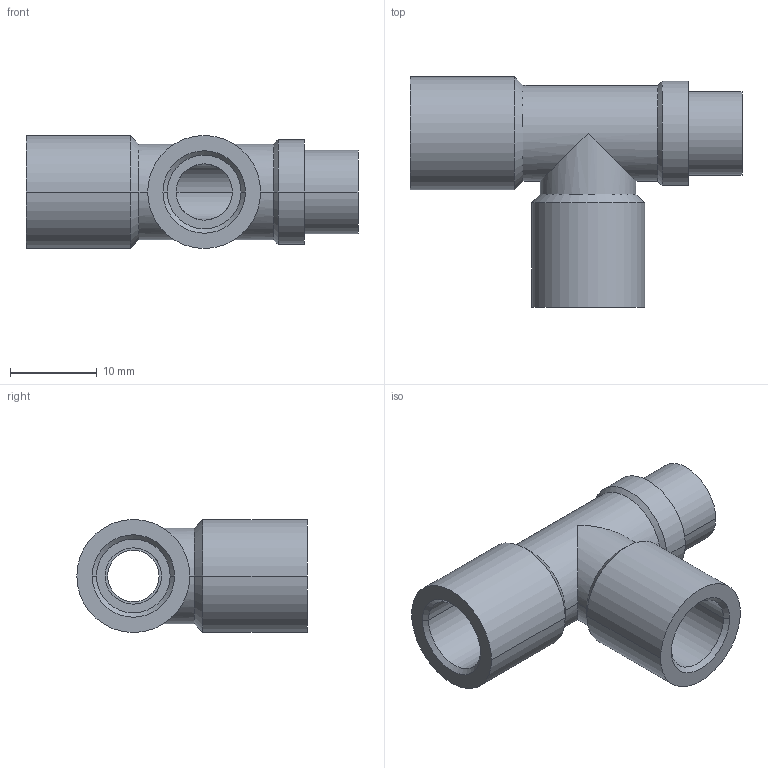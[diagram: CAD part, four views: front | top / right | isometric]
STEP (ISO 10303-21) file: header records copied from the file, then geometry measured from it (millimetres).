
FILE_DESCRIPTION((''),'2;1');
FILE_NAME('TTY-PDF01G-01P','2024-01-26T08:43:23',('EMC03286'),(''),'CREO PARAMETRIC BY PTC INC, 2019010','CREO PARAMETRIC BY PTC INC, 2019010','');
FILE_SCHEMA(('CONFIG_CONTROL_DESIGN'));
Length unit declared in the file: millimetre
Products named in the file (1): TTY-PDF01G-01P
Bounding box: 38.2 x 26.5 x 13 mm (x, y, z)
Volume: 3714.4 mm3; surface area: 3423 mm2
Topology: 1 solids, 1 shells, 42 faces, 92 edges, 54 vertices
Faces by surface type: cylinder 22, cone 14, plane 6
Entity records: 1260 total; most frequent: CARTESIAN_POINT 272, DIRECTION 214, ORIENTED_EDGE 184, EDGE_CURVE 92, AXIS2_PLACEMENT_3D 88, VERTEX_POINT 54, EDGE_LOOP 48, CIRCLE 46
